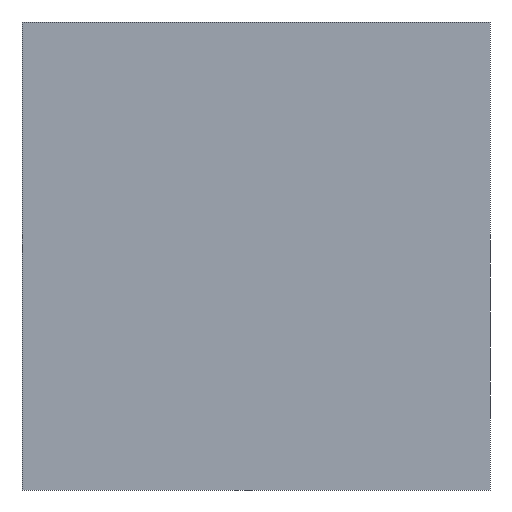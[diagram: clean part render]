
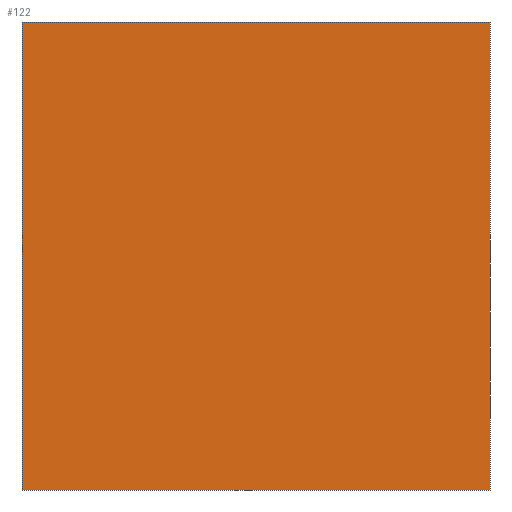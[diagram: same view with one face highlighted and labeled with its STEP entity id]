
A CAD part, front view. The second image highlights one B-rep face of the part: STEP entity #122.
In plain terms, the highlighted planar face has unit normal (0, -1, 0).
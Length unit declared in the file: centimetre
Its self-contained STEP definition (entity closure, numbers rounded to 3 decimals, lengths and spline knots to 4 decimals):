
#1 = VERTEX_POINT ( 'NONE', #337 ) ;
#24 = EDGE_CURVE ( 'NONE', #109, #543, #805, .T. ) ;
#86 = EDGE_CURVE ( 'NONE', #558, #1, #367, .T. ) ;
#93 = CARTESIAN_POINT ( 'NONE',  ( 1000., 0., 1000. ) ) ;
#99 = DIRECTION ( 'NONE',  ( 0., 1., 0. ) ) ;
#106 = ORIENTED_EDGE ( 'NONE', *, *, #372, .F. ) ;
#109 = VERTEX_POINT ( 'NONE', #503 ) ;
#122 = ADVANCED_FACE ( 'NONE', ( #832 ), #772, .F. ) ;
#137 = ORIENTED_EDGE ( 'NONE', *, *, #86, .F. ) ;
#165 = VECTOR ( 'NONE', #492, 100. ) ;
#217 = AXIS2_PLACEMENT_3D ( 'NONE', #694, #99, #575 ) ;
#220 = CARTESIAN_POINT ( 'NONE',  ( 0., 0., 0. ) ) ;
#337 = CARTESIAN_POINT ( 'NONE',  ( 1000., 0., 0. ) ) ;
#364 = EDGE_LOOP ( 'NONE', ( #720, #137, #106, #798 ) ) ;
#367 = LINE ( 'NONE', #494, #835 ) ;
#372 = EDGE_CURVE ( 'NONE', #109, #558, #660, .T. ) ;
#392 = DIRECTION ( 'NONE',  ( 0., 0., -1. ) ) ;
#395 = CARTESIAN_POINT ( 'NONE',  ( 0., 0., 1000. ) ) ;
#487 = VECTOR ( 'NONE', #589, 100. ) ;
#492 = DIRECTION ( 'NONE',  ( 1., 0., 0. ) ) ;
#493 = EDGE_CURVE ( 'NONE', #543, #1, #846, .T. ) ;
#494 = CARTESIAN_POINT ( 'NONE',  ( 1000., 0., 1000. ) ) ;
#503 = CARTESIAN_POINT ( 'NONE',  ( 0., 0., 1000. ) ) ;
#543 = VERTEX_POINT ( 'NONE', #771 ) ;
#558 = VERTEX_POINT ( 'NONE', #93 ) ;
#571 = DIRECTION ( 'NONE',  ( 0., 0., -1. ) ) ;
#575 = DIRECTION ( 'NONE',  ( 0., 0., 1. ) ) ;
#589 = DIRECTION ( 'NONE',  ( 1., 0., 0. ) ) ;
#660 = LINE ( 'NONE', #797, #487 ) ;
#694 = CARTESIAN_POINT ( 'NONE',  ( 0., 0., 1000. ) ) ;
#720 = ORIENTED_EDGE ( 'NONE', *, *, #493, .T. ) ;
#771 = CARTESIAN_POINT ( 'NONE',  ( 0., 0., 0. ) ) ;
#772 = PLANE ( 'NONE',  #217 ) ;
#790 = VECTOR ( 'NONE', #392, 100. ) ;
#797 = CARTESIAN_POINT ( 'NONE',  ( 0., 0., 1000. ) ) ;
#798 = ORIENTED_EDGE ( 'NONE', *, *, #24, .T. ) ;
#805 = LINE ( 'NONE', #395, #790 ) ;
#832 = FACE_OUTER_BOUND ( 'NONE', #364, .T. ) ;
#835 = VECTOR ( 'NONE', #571, 100. ) ;
#846 = LINE ( 'NONE', #220, #165 ) ;
